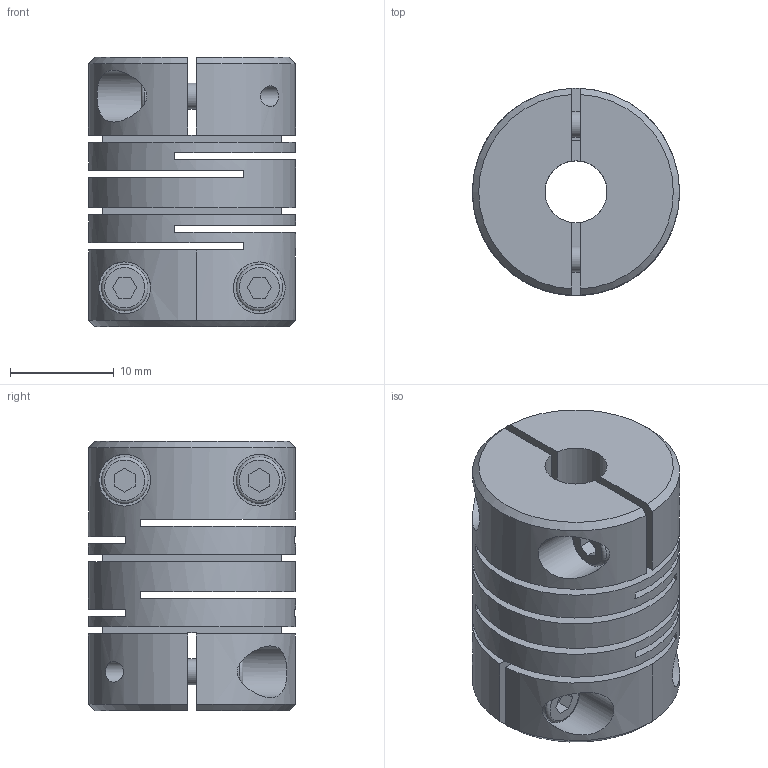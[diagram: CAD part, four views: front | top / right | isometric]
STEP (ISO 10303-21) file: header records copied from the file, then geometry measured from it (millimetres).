
FILE_DESCRIPTION (( 'STEP AP214' ), '1' );
FILE_NAME ('2246-20-B6-1_4-NI.step', '2022-05-27T09:30:55', ( '' ), ( '' ), 'SwSTEP 2.0', 'SolidWorks 2019', '' );
FILE_SCHEMA (( 'AUTOMOTIVE_DESIGN' ));
Length unit declared in the file: millimetre
Products named in the file (1): 2246-20-B6-1_4-NI
Bounding box: 20 x 20 x 26 mm (x, y, z)
Volume: 5996.4 mm3; surface area: 6093.3 mm2
Topology: 1 solids, 1 shells, 123 faces, 308 edges, 208 vertices
Faces by surface type: plane 79, cylinder 32, cone 8, torus 4
Full cylindrical faces by diameter (mm): 2.01 x4, 2.5 x4, 2.7 x4, 4.5 x4, 5 x4, 6 x3, 6.35 x3, 20 x1
Entity records: 4264 total; most frequent: CARTESIAN_POINT 939, DIRECTION 552, ORIENTED_EDGE 476, EDGE_CURVE 238, AXIS2_PLACEMENT_3D 207, EDGE_LOOP 200, VERTEX_POINT 178, FACE_OUTER_BOUND 153
